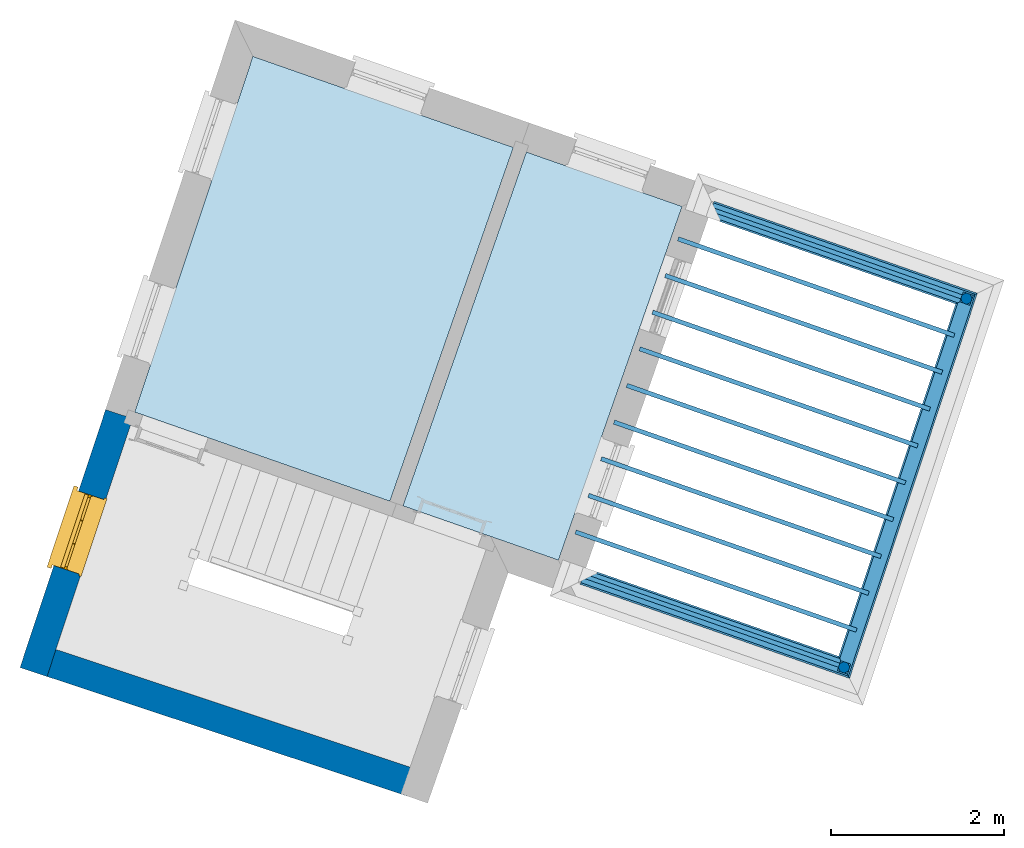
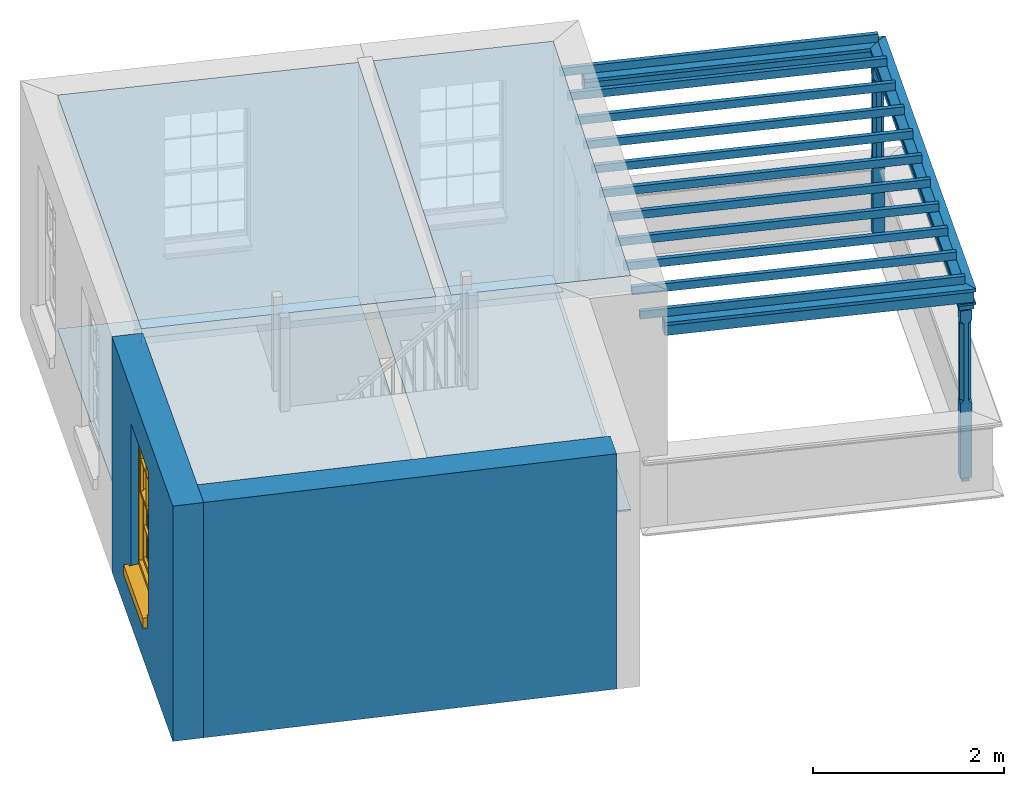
# One storey, part 1 of 6: 17 beams, 4 slabs, 2 columns, 2 walls, 1 window, 1 opening.
"""IFC4 building model written with IfcOpenShell, lengths in metres."""

import ifcopenshell
import ifcopenshell.guid

model = None  # the IFC model being written
_history = None  # IfcOwnerHistory: only IFC2X3 demands one
_inside = {}  # id of a spatial element -> (the spatial element, [elements in it])
_under = {}  # id of a project, library or spatial element -> (it, [spatial elements below it])
_declared = {}  # id of a project -> (the project, [libraries it declares])
_typed = {}  # id of a type object -> (the type object, [elements of that type])
_made_of = {}  # id of a material, layer set ... -> (it, [elements and type objects made of it])


def new_model(schema):
    """Start an empty IFC model of exactly this schema.

    Asked for "IFC4X3", IfcOpenShell would pick the latest addendum, in which some entities
    have other attributes; the version numbers below select the first issue.
    IFC2X3 requires an IfcOwnerHistory on every rooted entity: one is made here for all.
    """
    global model, _history
    if schema == "IFC4X3":
        model = ifcopenshell.file(schema_version=(4, 3, 0, 0))
    else:
        model = ifcopenshell.file(schema=schema)
    _inside.clear()
    _under.clear()
    _declared.clear()
    _typed.clear()
    _made_of.clear()
    _history = None
    if model.schema == "IFC2X3":
        org = make("IfcOrganization", Name="unknown")
        user = make(
            "IfcPersonAndOrganization",
            ThePerson=make("IfcPerson", FamilyName="unknown"),
            TheOrganization=org,
        )
        app = make(
            "IfcApplication",
            ApplicationDeveloper=org,
            Version="unknown",
            ApplicationFullName="unknown",
            ApplicationIdentifier="unknown",
        )
        _history = make(
            "IfcOwnerHistory",
            OwningUser=user,
            OwningApplication=app,
            ChangeAction="ADDED",
            CreationDate=0,
        )
    return model


def make(cls, **values):
    """One entity of the class cls with the attributes given. An attribute that is None is left unset."""
    return model.create_entity(
        cls, **{name: value for name, value in values.items() if value is not None}
    )


def rooted(cls, **values):
    """An entity with a GlobalId (a new one), such as an element, a storey or a relation."""
    return make(cls, GlobalId=ifcopenshell.guid.new(), OwnerHistory=_history, **values)


def si_unit(unit_type, name, prefix=None):
    """IfcSIUnit, for example si_unit("LENGTHUNIT", "METRE", prefix="MILLI")."""
    return make("IfcSIUnit", UnitType=unit_type, Prefix=prefix, Name=name)


def assignment(units):
    """IfcUnitAssignment: the units of a project."""
    return None if units is None else make("IfcUnitAssignment", Units=units)


def point(xyz):
    """IfcCartesianPoint."""
    return None if xyz is None else make("IfcCartesianPoint", Coordinates=xyz)


def direction(xyz):
    """IfcDirection."""
    return None if xyz is None else make("IfcDirection", DirectionRatios=xyz)


def frame(location, z_axis=None, x_axis=None):
    """IfcAxis2Placement3D, a coordinate frame: its origin and axes. An axis left out is left unset."""
    return make(
        "IfcAxis2Placement3D",
        Location=point(location),
        Axis=direction(z_axis),
        RefDirection=direction(x_axis),
    )


def origin():
    """The frame at (0, 0, 0) with its axes left unset."""
    return frame((0.0, 0.0, 0.0))


def origin_with_axes():
    """The frame at (0, 0, 0) with the z axis (0, 0, 1) and the x axis (1, 0, 0) written out."""
    return frame((0.0, 0.0, 0.0), z_axis=(0.0, 0.0, 1.0), x_axis=(1.0, 0.0, 0.0))


def place(relative_to, where):
    """IfcLocalPlacement: puts the frame where relative to a parent placement (None: the world)."""
    return make(
        "IfcLocalPlacement", PlacementRelTo=relative_to, RelativePlacement=where
    )


def context(
    kind, dimensions, precision=None, world=None, true_north=None, identifier=None
):
    """IfcGeometricRepresentationContext, for example the 3D "Model" context."""
    return make(
        "IfcGeometricRepresentationContext",
        ContextIdentifier=identifier,
        ContextType=kind,
        CoordinateSpaceDimension=dimensions,
        Precision=precision,
        WorldCoordinateSystem=world,
        TrueNorth=true_north,
    )


def subcontext(parent, identifier, kind, view, scale=None):
    """IfcGeometricRepresentationSubContext, for example "Body" below "Model"."""
    return make(
        "IfcGeometricRepresentationSubContext",
        ContextIdentifier=identifier,
        ContextType=kind,
        ParentContext=parent,
        TargetScale=scale,
        TargetView=view,
    )


def project(units=None, contexts=None):
    """IfcProject with its units and contexts."""
    return rooted(
        "IfcProject",
        Name="project",
        RepresentationContexts=contexts,
        UnitsInContext=assignment(units),
    )


def spatial(cls, under=None, at=None, **own):
    """A site, building, storey or space (cls), placed at a placement, below another one or the project."""
    s = rooted(cls, ObjectPlacement=at, **own)
    if under is not None:
        _under.setdefault(under.id(), (under, []))[1].append(s)
    return s


def polyline(points):
    """IfcPolyline through the points."""
    return make("IfcPolyline", Points=[point(p) for p in points])


def outline(outer, holes=None, kind="AREA"):
    """IfcArbitraryClosedProfileDef: a profile drawn as a closed curve; with holes, ...WithVoids."""
    if holes is None:
        return make("IfcArbitraryClosedProfileDef", ProfileType=kind, OuterCurve=outer)
    return make(
        "IfcArbitraryProfileDefWithVoids",
        ProfileType=kind,
        OuterCurve=outer,
        InnerCurves=holes,
    )


def extrude(swept, where, along, depth):
    """IfcExtrudedAreaSolid: the profile swept, set in the frame where, extruded along a direction by depth."""
    return make(
        "IfcExtrudedAreaSolid",
        SweptArea=swept,
        Position=where,
        ExtrudedDirection=direction(along),
        Depth=depth,
    )


def clip(a, b, op="DIFFERENCE"):
    """IfcBooleanClippingResult: the solid a cut by the half space b."""
    return make(
        "IfcBooleanClippingResult", Operator=op, FirstOperand=a, SecondOperand=b
    )


def halfspace(plane, agree):
    """IfcHalfSpaceSolid: all space on one side of the plane z = 0 of the frame plane."""
    return make(
        "IfcHalfSpaceSolid",
        BaseSurface=make("IfcPlane", Position=plane),
        AgreementFlag=agree,
    )


def faces_of(points, faces, orient=None, outer=None):
    """IfcFace entities. A face is a list of loops; a loop is a list of indices into points, from 0.

    orient and outer hold one flag for each loop. By default every Orientation is true, the
    first loop of a face is its IfcFaceOuterBound and the others are IfcFaceBound.
    """
    made = []
    for i, loops in enumerate(faces):
        bounds = []
        for j, loop in enumerate(loops):
            is_outer = j == 0 if outer is None else outer[i][j]
            bounds.append(
                make(
                    "IfcFaceOuterBound" if is_outer else "IfcFaceBound",
                    Bound=make("IfcPolyLoop", Polygon=[points[k] for k in loop]),
                    Orientation=True if orient is None else orient[i][j],
                )
            )
        made.append(make("IfcFace", Bounds=bounds))
    return made


def faceted_brep(points, faces, orient=None, outer=None, voids=None):
    """IfcFacetedBrep: a solid bounded by flat faces; with voids (closed shells), ...WithVoids."""
    shared = [point(p) for p in points]
    hull = make("IfcClosedShell", CfsFaces=faces_of(shared, faces, orient, outer))
    if voids is None:
        return make("IfcFacetedBrep", Outer=hull)
    return make(
        "IfcFacetedBrepWithVoids",
        Outer=hull,
        Voids=[
            make(cls, CfsFaces=faces_of(shared, fs, o, b)) for cls, fs, o, b in voids
        ],
    )


def shape(context_of_items, identifier, shape_type, items):
    """IfcShapeRepresentation: the items that make up one representation, for example the "Body"."""
    return make(
        "IfcShapeRepresentation",
        ContextOfItems=context_of_items,
        RepresentationIdentifier=identifier,
        RepresentationType=shape_type,
        Items=items,
    )


def source(mapping_origin, context_of_items, identifier, shape_type, items):
    """IfcRepresentationMap: a shape defined once, which mapped items show again and again."""
    return make(
        "IfcRepresentationMap",
        MappingOrigin=mapping_origin,
        MappedRepresentation=shape(context_of_items, identifier, shape_type, items),
    )


def transform(
    local_origin,
    x_axis=None,
    y_axis=None,
    z_axis=None,
    scale=None,
    scale2=None,
    scale3=None,
    uniform=True,
):
    """IfcCartesianTransformationOperator3D, or its non-uniform kind. x_axis, y_axis, z_axis: its Axis1, 2, 3."""
    if uniform:
        return make(
            "IfcCartesianTransformationOperator3D",
            Axis1=direction(x_axis),
            Axis2=direction(y_axis),
            LocalOrigin=point(local_origin),
            Scale=scale,
            Axis3=direction(z_axis),
        )
    return make(
        "IfcCartesianTransformationOperator3DnonUniform",
        Axis1=direction(x_axis),
        Axis2=direction(y_axis),
        LocalOrigin=point(local_origin),
        Scale=scale,
        Axis3=direction(z_axis),
        Scale2=scale2,
        Scale3=scale3,
    )


def mapped(mapping_source, mapping_target):
    """IfcMappedItem: shows the shape of a source again, moved by a transform."""
    return make(
        "IfcMappedItem", MappingSource=mapping_source, MappingTarget=mapping_target
    )


def material(Name=None, Category=None):
    """IfcMaterial."""
    return make("IfcMaterial", Name=Name, Category=Category)


def layer(
    of_material, thickness, ventilated=None, Name=None, Category=None, Priority=None
):
    """IfcMaterialLayer: one layer of a wall or slab, of a material (None: an air gap)."""
    return make(
        "IfcMaterialLayer",
        Material=of_material,
        LayerThickness=thickness,
        IsVentilated=ventilated,
        Name=Name,
        Category=Category,
        Priority=Priority,
    )


def layer_set(layers, Name=None):
    """IfcMaterialLayerSet."""
    return make("IfcMaterialLayerSet", MaterialLayers=layers, LayerSetName=Name)


def layer_usage(for_layer_set, set_direction, sense, offset, extent=None):
    """IfcMaterialLayerSetUsage: how a layer set lies in its element."""
    return make(
        "IfcMaterialLayerSetUsage",
        ForLayerSet=for_layer_set,
        LayerSetDirection=set_direction,
        DirectionSense=sense,
        OffsetFromReferenceLine=offset,
        ReferenceExtent=extent,
    )


def material_profile(
    of_material, cross_section, Name=None, Category=None, Priority=None
):
    """IfcMaterialProfile: a cross section and its material."""
    return make(
        "IfcMaterialProfile",
        Name=Name,
        Material=of_material,
        Profile=cross_section,
        Priority=Priority,
        Category=Category,
    )


def profile_set(profiles, Name=None, composite=None):
    """IfcMaterialProfileSet."""
    return make(
        "IfcMaterialProfileSet",
        Name=Name,
        MaterialProfiles=profiles,
        CompositeProfile=composite,
    )


def profile_usage(for_profile_set, cardinal=None, extent=None):
    """IfcMaterialProfileSetUsage: how a profile set lies along its element."""
    return make(
        "IfcMaterialProfileSetUsage",
        ForProfileSet=for_profile_set,
        CardinalPoint=cardinal,
        ReferenceExtent=extent,
    )


def made_of(thing, what):
    """Note that an element or type object is made of a material, layer set ...; save() writes the relation."""
    if what is not None:
        _made_of.setdefault(what.id(), (what, []))[1].append(thing)
    return thing


def type_object(cls, material=None, **own):
    """A type object (cls), such as IfcWallType, which elements share."""
    return made_of(rooted(cls, **own), material)


def type_shapes(of_type, sources):
    """Give a type object the sources (RepresentationMaps) that its elements show as mapped items."""
    of_type.RepresentationMaps = sources


def element(
    cls,
    number,
    at=None,
    inside=None,
    cuts=None,
    type_object=None,
    material=None,
    context=None,
    identifier="Body",
    shape_type=None,
    held_by="IfcProductDefinitionShape",
    body=None,
    shapes=None,
    **own,
):
    """One element of the class cls, such as IfcWall. Its Tag is "e" and its number.

    at: its placement. inside: the storey or other place that contains it. cuts: it is an
    opening in that element (IfcRelVoidsElement). A single representation is given by context,
    identifier, shape_type and body (its items); several are given by shapes. held_by: the class
    of the entity that holds the representations. save() writes the other relations.
    """
    e = rooted(cls, Tag="e%d" % number, ObjectPlacement=at, **own)
    if body is not None:
        shapes = [shape(context, identifier, shape_type, body)]
    if shapes is not None:
        e.Representation = make(held_by, Representations=shapes)
    if inside is not None:
        _inside.setdefault(inside.id(), (inside, []))[1].append(e)
    if cuts is not None:
        rooted(
            "IfcRelVoidsElement", RelatingBuildingElement=cuts, RelatedOpeningElement=e
        )
    if type_object is not None:
        _typed.setdefault(type_object.id(), (type_object, []))[1].append(e)
    return made_of(e, material)


def fill(opening, filler):
    """IfcRelFillsElement: the door or window that sits in an opening."""
    return rooted(
        "IfcRelFillsElement",
        RelatingOpeningElement=opening,
        RelatedBuildingElement=filler,
    )


def aggregate(whole, parts):
    """IfcRelAggregates: a whole, such as a stair, and the parts it consists of."""
    return rooted("IfcRelAggregates", RelatingObject=whole, RelatedObjects=parts)


def save(model, path):
    """Write the relations noted so far, then the file.

    IfcRelAggregates (storeys below a building ...), IfcRelContainedInSpatialStructure (elements
    in a storey), IfcRelDefinesByType, IfcRelAssociatesMaterial and IfcRelDeclares: one each for
    every whole, place, type object, material and project.
    """
    for whole, parts in _under.values():
        aggregate(whole, parts)
    for where, things in _inside.values():
        rooted(
            "IfcRelContainedInSpatialStructure",
            RelatedElements=things,
            RelatingStructure=where,
        )
    for kind, things in _typed.values():
        rooted("IfcRelDefinesByType", RelatedObjects=things, RelatingType=kind)
    for what, things in _made_of.values():
        rooted("IfcRelAssociatesMaterial", RelatedObjects=things, RelatingMaterial=what)
    for by, libraries in _declared.values():
        rooted("IfcRelDeclares", RelatingContext=by, RelatedDefinitions=libraries)
    model.write(path)


model = new_model("IFC4")

# Units and contexts
model_context = context("Model", 3, world=origin_with_axes())
body_context = subcontext(model_context, "Body", "Model", "MODEL_VIEW")
ifc_project = project(units=[si_unit("PLANEANGLEUNIT", "RADIAN"), si_unit("MASSUNIT", "GRAM", prefix="KILO"), si_unit("FORCEUNIT", "NEWTON", prefix="KILO"), si_unit("LENGTHUNIT", "METRE"), si_unit("AREAUNIT", "SQUARE_METRE"), si_unit("VOLUMEUNIT", "CUBIC_METRE")], contexts=[model_context, model_context])

# Sites, building, storey
site_1_placement = place(None, origin_with_axes())
site_1 = spatial("IfcSite", under=ifc_project, at=site_1_placement, Name="Tamar")
site_2_placement = place(site_1_placement, origin_with_axes())
site_2 = spatial("IfcSite", under=site_1, at=site_2_placement, Name="Site plot-15", CompositionType="ELEMENT")
building_placement = place(None, origin_with_axes())
building = spatial("IfcBuilding", under=site_2, at=building_placement, Name="Building plot-15", CompositionType="ELEMENT")
storey_placement = place(None, frame((0.0, 0.0, 29.95), z_axis=(0.0, 0.0, 1.0), x_axis=(1.0, 0.0, 0.0)))
storey = spatial("IfcBuildingStorey", under=building, at=storey_placement, Name="plot-15 1", CompositionType="ELEMENT", Elevation=29.95)

# Columns
column_type = type_object("IfcColumnType", Name="pergola post", PredefinedType="NOTDEFINED")
shared_shape_1 = source(origin(), body_context, "Body", "Brep", [
    faceted_brep([(0.0246, -0.0615, 2.02), (0.0615, -0.0246, 2.02), (0.0615, -0.0615, 2.066667), (0.0615, -0.0246, 1.044444), (0.0246, -0.0615, 1.044444), (0.0615, 0.0246, 2.02), (0.0615, 0.0615, 2.066667), (-0.0246, -0.0615, 2.02), (-0.0615, -0.0615, 2.066667), (-0.0246, -0.0615, 1.044444), (0.0615, -0.0615, 0.997778), (0.0615, 0.0246, 1.044444), (0.0246, 0.0615, 2.02), (0.0615, 0.0615, 2.191111), (0.0615, -0.0615, 2.191111), (-0.0615, -0.0615, 2.191111), (-0.0615, -0.0246, 2.02), (-0.0615, -0.0246, 1.044444), (-0.0615, -0.0615, 0.997778), (0.0615, 0.0615, 0.997778), (0.0246, 0.0615, 1.044444), (-0.0246, 0.0615, 2.02), (-0.0615, 0.0615, 2.066667), (0.04305, 0.04305, 2.191111), (0.04305, -0.04305, 2.191111), (-0.0615, 0.0615, 2.191111), (-0.04305, -0.04305, 2.191111), (-0.0615, 0.0246, 2.02), (-0.0615, 0.0246, 1.044444), (0.0615, -0.0615, 0.053333), (-0.0615, -0.0615, 0.053333), (0.0615, 0.0615, 0.053333), (-0.0246, 0.0615, 1.044444), (-0.04305, 0.04305, 2.191111), (0.04305, 0.04305, 2.214444), (0.04305, -0.04305, 2.214444), (-0.04305, -0.04305, 2.214444), (-0.0615, 0.0615, 0.997778), (-0.0615, 0.0615, 0.053333), (-0.04305, -0.04305, 0.053333), (0.04305, -0.04305, 0.053333), (0.04305, 0.04305, 0.053333), (-0.04305, 0.04305, 2.214444), (0.07995, 0.07995, 2.214444), (0.07995, -0.07995, 2.214444), (-0.07995, -0.07995, 2.214444), (-0.04305, 0.04305, 0.053333), (-0.04305, -0.04305, 0.0), (0.04305, -0.04305, 0.0), (0.04305, 0.04305, 0.0), (-0.07995, 0.07995, 2.214444), (0.07995, 0.07995, 2.276667), (0.07995, -0.07995, 2.276667), (-0.07995, -0.07995, 2.276667), (-0.04305, 0.04305, 0.0), (-0.07995, 0.07995, 2.276667), (0.0984, 0.0984, 2.276667), (0.0984, -0.0984, 2.276667), (-0.0984, -0.0984, 2.276667), (-0.0984, 0.0984, 2.276667), (0.0984, 0.0984, 2.3), (0.0984, -0.0984, 2.3), (-0.0984, -0.0984, 2.3), (-0.0984, 0.0984, 2.3)], [[[0, 1, 2]], [[3, 1, 0, 4]], [[1, 5, 6, 2]], [[7, 0, 2, 8]], [[4, 0, 7, 9]], [[3, 4, 10]], [[1, 3, 11, 5]], [[5, 12, 6]], [[13, 14, 2, 6]], [[15, 8, 2, 14]], [[8, 16, 7]], [[9, 7, 16, 17]], [[9, 18, 10, 4]], [[3, 10, 19, 11]], [[20, 12, 5, 11]], [[21, 22, 6, 12]], [[14, 13, 23, 24]], [[13, 6, 22, 25]], [[25, 22, 8, 15]], [[26, 15, 14, 24]], [[16, 8, 22, 27]], [[27, 28, 17, 16]], [[17, 18, 9]], [[29, 10, 18, 30]], [[31, 19, 10, 29]], [[20, 11, 19]], [[12, 20, 32, 21]], [[21, 27, 22]], [[33, 23, 13, 25]], [[23, 34, 35, 24]], [[26, 33, 25, 15]], [[36, 26, 24, 35]], [[28, 27, 21, 32]], [[17, 28, 37, 18]], [[38, 30, 18, 37]], [[29, 30, 39, 40]], [[31, 38, 37, 19]], [[40, 41, 31, 29]], [[32, 20, 19, 37]], [[33, 42, 34, 23]], [[43, 44, 35, 34]], [[42, 33, 26, 36]], [[36, 35, 44, 45]], [[28, 32, 37]], [[46, 39, 30, 38]], [[39, 47, 48, 40]], [[46, 38, 31, 41]], [[49, 41, 40, 48]], [[43, 34, 42, 50]], [[43, 51, 52, 44]], [[45, 50, 42, 36]], [[53, 45, 44, 52]], [[46, 54, 47, 39]], [[54, 46, 41, 49]], [[50, 55, 51, 43]], [[56, 57, 52, 51]], [[55, 50, 45, 53]], [[53, 52, 57, 58]], [[56, 51, 55, 59]], [[56, 60, 61, 57]], [[58, 59, 55, 53]], [[62, 58, 57, 61]], [[59, 63, 60, 56]], [[63, 62, 61, 60]], [[58, 62, 63, 59]], [[47, 54, 49, 48]]]),
])
type_shapes(column_type, [shared_shape_1])
for number, where, z_axis, x_axis, name in (
    (1, (265.557197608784, 303.834257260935, 0.0), (0.0, 0.0, 1.0), (0.315038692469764, 0.949078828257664, 0.0), "pergola post"),
    (2, (266.976352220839, 308.109572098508, 0.0), (0.0, 0.0, 1.0), (-0.943980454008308, 0.33000136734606, 0.0), "pergola post"),
):
    element("IfcColumn", number, at=place(storey_placement, frame(where, z_axis=z_axis, x_axis=x_axis)), inside=storey, type_object=column_type, Name=name, context=body_context, shape_type="MappedRepresentation", body=[
        mapped(shared_shape_1, transform((0.0, 0.0, 0.0), scale=1.0)),
    ])

# Beams
ifc_material_profile_1 = material_profile(None, outline(polyline([(-0.08, -0.7), (0.08, -0.7), (0.08, -0.56), (-0.08, -0.56), (-0.08, -0.7)])))
ifc_profile_set_1 = profile_set([ifc_material_profile_1])
ifc_profile_usage_1 = profile_usage(ifc_profile_set_1)
beam_type_1 = type_object("IfcBeamType", Name="pergola beam_0", PredefinedType="NOTDEFINED", material=ifc_profile_set_1)
beam_1_placement = place(storey_placement, frame((266.501178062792, 303.504255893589, 3.0), z_axis=(-0.94398045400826, 0.330001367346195, 0.0), x_axis=(-0.330001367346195, -0.94398045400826, 0.0)))
element("IfcBeam", 3, at=beam_1_placement, inside=storey, type_object=beam_type_1, material=ifc_profile_usage_1, Name="pergola beam_0", context=body_context, shape_type="Clipping", body=[
    clip(clip(extrude(outline(polyline([(-0.08, -0.7), (0.08, -0.7), (0.08, -0.56), (-0.08, -0.56), (-0.08, -0.7)])), origin_with_axes(), (0.0, 0.0, 1.0), 5.20638222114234), halfspace(frame((0.0, 0.0, 4.20638222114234), z_axis=(-3.61394601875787e-15, 0.0, -1.0), x_axis=(0.0, 1.0, 0.0)), True)), halfspace(frame((0.0, 0.0, 1.0), z_axis=(-0.712673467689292, 0.0, -0.701495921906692), x_axis=(0.0, 1.0, 0.0)), False)),
])
ifc_profile_usage_2 = profile_usage(ifc_profile_set_1)
beam_2_placement = place(storey_placement, frame((267.291390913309, 309.058650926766, 3.0), z_axis=(-0.315038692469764, -0.949078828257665, 0.0), x_axis=(0.949078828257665, -0.315038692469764, 0.0)))
element("IfcBeam", 4, at=beam_2_placement, inside=storey, type_object=beam_type_1, material=ifc_profile_usage_2, Name="pergola beam_0", context=body_context, shape_type="Clipping", body=[
    clip(clip(extrude(outline(polyline([(-0.08, -0.7), (0.08, -0.7), (0.08, -0.56), (-0.08, -0.56), (-0.08, -0.7)])), origin_with_axes(), (0.0, 0.0, 1.0), 6.50469940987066), halfspace(frame((0.0, 0.0, 5.50469940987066), z_axis=(0.712673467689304, 0.0, -0.70149592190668), x_axis=(0.0, 1.0, 0.0)), True)), halfspace(frame((0.0, 0.0, 1.0), z_axis=(-0.701495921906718, 0.0, -0.712673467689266), x_axis=(0.0, 1.0, 0.0)), False)),
])
ifc_profile_usage_3 = profile_usage(ifc_profile_set_1)
beam_3_placement = place(storey_placement, frame((263.072826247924, 309.474186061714, 3.0), z_axis=(0.943980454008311, -0.330001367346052, 0.0), x_axis=(0.330001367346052, 0.943980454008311, 0.0)))
element("IfcBeam", 5, at=beam_3_placement, inside=storey, type_object=beam_type_1, material=ifc_profile_usage_3, Name="pergola beam_0", context=body_context, shape_type="Clipping", body=[
    clip(clip(extrude(outline(polyline([(-0.08, -0.7), (0.08, -0.7), (0.08, -0.56), (-0.08, -0.56), (-0.08, -0.7)])), origin_with_axes(), (0.0, 0.0, 1.0), 5.13517669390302), halfspace(frame((0.0, 0.0, 4.13517669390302), z_axis=(0.701495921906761, 0.0, -0.712673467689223), x_axis=(0.0, 1.0, 0.0)), True)), halfspace(frame((0.0, 0.0, 1.0), z_axis=(-1.29398194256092e-14, 0.0, -1.0), x_axis=(0.0, 1.0, 0.0)), False)),
])
ifc_material_profile_2 = material_profile(None, outline(polyline([(0.0, -0.5), (-0.1, -0.52), (-0.1, -0.56), (0.1, -0.56), (0.1, -0.52), (0.0, -0.5)])))
ifc_profile_set_2 = profile_set([ifc_material_profile_2])
ifc_profile_usage_4 = profile_usage(ifc_profile_set_2)
beam_type_2 = type_object("IfcBeamType", Name="pergola beam_1", PredefinedType="NOTDEFINED", material=ifc_profile_set_2)
beam_4_placement = place(storey_placement, frame((266.501178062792, 303.504255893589, 3.0), z_axis=(-0.94398045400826, 0.330001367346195, 0.0), x_axis=(-0.330001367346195, -0.94398045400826, 0.0)))
element("IfcBeam", 6, at=beam_4_placement, inside=storey, type_object=beam_type_2, material=ifc_profile_usage_4, Name="pergola beam_1", context=body_context, shape_type="Clipping", body=[
    clip(clip(extrude(outline(polyline([(0.0, -0.5), (-0.1, -0.52), (-0.1, -0.56), (0.1, -0.56), (0.1, -0.52), (0.0, -0.5)])), origin_with_axes(), (0.0, 0.0, 1.0), 5.20638222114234), halfspace(frame((0.0, 0.0, 4.20638222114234), z_axis=(-3.61394601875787e-15, 0.0, -1.0), x_axis=(0.0, 1.0, 0.0)), True)), halfspace(frame((0.0, 0.0, 1.0), z_axis=(-0.712673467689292, 0.0, -0.701495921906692), x_axis=(0.0, 1.0, 0.0)), False)),
])
ifc_profile_usage_5 = profile_usage(ifc_profile_set_2)
beam_5_placement = place(storey_placement, frame((267.291390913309, 309.058650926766, 3.0), z_axis=(-0.315038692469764, -0.949078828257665, 0.0), x_axis=(0.949078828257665, -0.315038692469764, 0.0)))
element("IfcBeam", 7, at=beam_5_placement, inside=storey, type_object=beam_type_2, material=ifc_profile_usage_5, Name="pergola beam_1", context=body_context, shape_type="Clipping", body=[
    clip(clip(extrude(outline(polyline([(0.0, -0.5), (-0.1, -0.52), (-0.1, -0.56), (0.1, -0.56), (0.1, -0.52), (0.0, -0.5)])), origin_with_axes(), (0.0, 0.0, 1.0), 6.50469940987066), halfspace(frame((0.0, 0.0, 5.50469940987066), z_axis=(0.712673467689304, 0.0, -0.70149592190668), x_axis=(0.0, 1.0, 0.0)), True)), halfspace(frame((0.0, 0.0, 1.0), z_axis=(-0.701495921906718, 0.0, -0.712673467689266), x_axis=(0.0, 1.0, 0.0)), False)),
])
ifc_profile_usage_6 = profile_usage(ifc_profile_set_2)
beam_6_placement = place(storey_placement, frame((263.072826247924, 309.474186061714, 3.0), z_axis=(0.943980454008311, -0.330001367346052, 0.0), x_axis=(0.330001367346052, 0.943980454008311, 0.0)))
element("IfcBeam", 8, at=beam_6_placement, inside=storey, type_object=beam_type_2, material=ifc_profile_usage_6, Name="pergola beam_1", context=body_context, shape_type="Clipping", body=[
    clip(clip(extrude(outline(polyline([(0.0, -0.5), (-0.1, -0.52), (-0.1, -0.56), (0.1, -0.56), (0.1, -0.52), (0.0, -0.5)])), origin_with_axes(), (0.0, 0.0, 1.0), 5.13517669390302), halfspace(frame((0.0, 0.0, 4.13517669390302), z_axis=(0.701495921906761, 0.0, -0.712673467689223), x_axis=(0.0, 1.0, 0.0)), True)), halfspace(frame((0.0, 0.0, 1.0), z_axis=(-1.29398194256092e-14, 0.0, -1.0), x_axis=(0.0, 1.0, 0.0)), False)),
])
beam_7_placement = place(storey_placement, frame((263.789061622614, 309.250284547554, 2.5)))
element("IfcBeam", 9, at=beam_7_placement, inside=storey, Name="My Beam", ObjectType="Beam", context=body_context, shape_type="SweptSolid", body=[
    extrude(outline(polyline([(0.0, 0.0), (-0.0165000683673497, -0.0471990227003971), (3.17904056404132, -1.16431196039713), (3.19554063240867, -1.11711293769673), (0.0, 0.0)])), origin_with_axes(), (0.0, 0.0, 1.0), 0.1),
])
beam_8_placement = place(storey_placement, frame((263.640561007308, 308.825493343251, 2.5)))
element("IfcBeam", 10, at=beam_8_placement, inside=storey, Name="My Beam", ObjectType="Beam", context=body_context, shape_type="SweptSolid", body=[
    extrude(outline(polyline([(0.0, 0.0), (-0.0165000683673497, -0.0471990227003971), (3.18575605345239, -1.16665959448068), (3.20225612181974, -1.11946057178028), (0.0, 0.0)])), origin_with_axes(), (0.0, 0.0, 1.0), 0.1),
])
beam_9_placement = place(storey_placement, frame((263.492060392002, 308.400702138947, 2.5)))
element("IfcBeam", 11, at=beam_9_placement, inside=storey, Name="My Beam", ObjectType="Beam", context=body_context, shape_type="SweptSolid", body=[
    extrude(outline(polyline([(0.0, 0.0), (-0.0165000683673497, -0.0471990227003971), (3.19247154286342, -1.16900722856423), (3.20897161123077, -1.12180820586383), (0.0, 0.0)])), origin_with_axes(), (0.0, 0.0, 1.0), 0.1),
])
beam_10_placement = place(storey_placement, frame((263.343559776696, 307.975910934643, 2.5)))
element("IfcBeam", 12, at=beam_10_placement, inside=storey, Name="My Beam", ObjectType="Beam", context=body_context, shape_type="SweptSolid", body=[
    extrude(outline(polyline([(0.0, 0.0), (-0.0165000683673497, -0.0471990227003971), (3.19918703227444, -1.17135486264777), (3.21568710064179, -1.12415583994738), (0.0, 0.0)])), origin_with_axes(), (0.0, 0.0, 1.0), 0.1),
])
beam_11_placement = place(storey_placement, frame((263.19505916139, 307.551119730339, 2.5)))
element("IfcBeam", 13, at=beam_11_placement, inside=storey, Name="My Beam", ObjectType="Beam", context=body_context, shape_type="SweptSolid", body=[
    extrude(outline(polyline([(0.0, 0.0), (-0.0165000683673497, -0.0471990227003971), (3.20590252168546, -1.17370249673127), (3.22240259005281, -1.12650347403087), (0.0, 0.0)])), origin_with_axes(), (0.0, 0.0, 1.0), 0.1),
])
beam_12_placement = place(storey_placement, frame((263.046558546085, 307.126328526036, 2.5)))
element("IfcBeam", 14, at=beam_12_placement, inside=storey, Name="My Beam", ObjectType="Beam", context=body_context, shape_type="SweptSolid", body=[
    extrude(outline(polyline([(0.0, 0.0), (-0.0165000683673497, -0.0471990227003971), (3.21261801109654, -1.17605013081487), (3.22911807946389, -1.12885110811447), (0.0, 0.0)])), origin_with_axes(), (0.0, 0.0, 1.0), 0.1),
])
beam_13_placement = place(storey_placement, frame((262.898057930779, 306.701537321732, 2.5)))
element("IfcBeam", 15, at=beam_13_placement, inside=storey, Name="My Beam", ObjectType="Beam", context=body_context, shape_type="SweptSolid", body=[
    extrude(outline(polyline([(0.0, 0.0), (-0.0165000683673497, -0.0471990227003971), (3.21933350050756, -1.17839776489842), (3.23583356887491, -1.13119874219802), (0.0, 0.0)])), origin_with_axes(), (0.0, 0.0, 1.0), 0.1),
])
beam_14_placement = place(storey_placement, frame((262.749557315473, 306.276746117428, 2.5)))
element("IfcBeam", 16, at=beam_14_placement, inside=storey, Name="My Beam", ObjectType="Beam", context=body_context, shape_type="SweptSolid", body=[
    extrude(outline(polyline([(0.0, 0.0), (-0.0165000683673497, -0.0471990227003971), (3.22604898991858, -1.18074539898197), (3.24254905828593, -1.13354637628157), (0.0, 0.0)])), origin_with_axes(), (0.0, 0.0, 1.0), 0.1),
])
beam_15_placement = place(storey_placement, frame((262.601056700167, 305.851954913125, 2.5)))
element("IfcBeam", 17, at=beam_15_placement, inside=storey, Name="My Beam", ObjectType="Beam", context=body_context, shape_type="SweptSolid", body=[
    extrude(outline(polyline([(0.0, 0.0), (-0.0165000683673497, -0.0471990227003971), (3.23276447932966, -1.18309303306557), (3.24926454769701, -1.13589401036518), (0.0, 0.0)])), origin_with_axes(), (0.0, 0.0, 1.0), 0.1),
])
beam_16_placement = place(storey_placement, frame((262.452556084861, 305.427163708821, 2.5)))
element("IfcBeam", 18, at=beam_16_placement, inside=storey, Name="My Beam", ObjectType="Beam", context=body_context, shape_type="SweptSolid", body=[
    extrude(outline(polyline([(0.0, 0.0), (-0.0165000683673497, -0.0471990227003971), (3.23947996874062, -1.18544066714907), (3.25598003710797, -1.13824164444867), (0.0, 0.0)])), origin_with_axes(), (0.0, 0.0, 1.0), 0.1),
])
beam_17_placement = place(storey_placement, frame((262.304055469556, 305.002372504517, 2.5)))
element("IfcBeam", 19, at=beam_17_placement, inside=storey, Name="My Beam", ObjectType="Beam", context=body_context, shape_type="SweptSolid", body=[
    extrude(outline(polyline([(0.0, 0.0), (-0.0165000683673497, -0.0471990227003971), (3.2461954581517, -1.18778830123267), (3.26269552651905, -1.14058927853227), (0.0, 0.0)])), origin_with_axes(), (0.0, 0.0, 1.0), 0.1),
])

# Slabs
slab_1_placement = place(storey_placement, frame((263.678893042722, 309.177566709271, 2.8)))
element("IfcSlab", 20, at=slab_1_placement, inside=storey, Name="My Slab", ObjectType="Slab", PredefinedType="FLOOR", context=body_context, shape_type="SweptSolid", body=[
    extrude(outline(polyline([(0.0, 0.0), (-1.80550277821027, 0.631176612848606), (-3.23667897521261, -3.47044062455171), (-1.43357101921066, -4.10078004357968), (0.0, 0.0)])), origin_with_axes(), (0.0, 0.0, 1.0), 0.2),
])
slab_2_placement = place(storey_placement, frame((263.678893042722, 309.177566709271, 0.0)))
element("IfcSlab", 21, at=slab_2_placement, inside=storey, Name="My Slab", ObjectType="Slab", PredefinedType="FLOOR", context=body_context, shape_type="SweptSolid", body=[
    extrude(outline(polyline([(0.0, 0.0), (-1.80550277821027, 0.631176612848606), (-3.23667897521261, -3.47044062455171), (-1.43357101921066, -4.10078004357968), (0.0, 0.0)])), origin_with_axes(), (0.0, 0.0, 1.0), 0.02),
])
slab_3_placement = place(storey_placement, frame((261.722353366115, 309.861543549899, 2.8)))
element("IfcSlab", 22, at=slab_3_placement, inside=storey, Name="My Slab", ObjectType="Slab", PredefinedType="FLOOR", context=body_context, shape_type="SweptSolid", body=[
    extrude(outline(polyline([(0.0, 0.0), (-3.01981933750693, 1.05568341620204), (-4.38856146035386, -3.06775983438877), (-1.4311761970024, -4.10161723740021), (0.0, 0.0)])), origin_with_axes(), (0.0, 0.0, 1.0), 0.2),
])
slab_4_placement = place(storey_placement, frame((261.722353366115, 309.861543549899, 0.0)))
element("IfcSlab", 23, at=slab_4_placement, inside=storey, Name="My Slab", ObjectType="Slab", PredefinedType="FLOOR", context=body_context, shape_type="SweptSolid", body=[
    extrude(outline(polyline([(0.0, 0.0), (-3.01981933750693, 1.05568341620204), (-4.38856146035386, -3.06775983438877), (-1.4311761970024, -4.10161723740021), (0.0, 0.0)])), origin_with_axes(), (0.0, 0.0, 1.0), 0.02),
])

# Wall, opening, window
ifc_material_1 = material(Name="Masonry")
ifc_layer_1 = layer(ifc_material_1, 0.33, ventilated=False)
ifc_layer_set_1 = layer_set([ifc_layer_1], Name="exterior_0.08_0.25")
ifc_layer_usage_1 = layer_usage(ifc_layer_set_1, "AXIS2", "POSITIVE", -0.25)
wall_type_1 = type_object("IfcWallType", Name="exterior_0.08_0.25", PredefinedType="SOLIDWALL", material=ifc_layer_set_1)
wall_1_placement = place(storey_placement, frame((257.233057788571, 306.744251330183, 0.0), z_axis=(0.0, 0.0, 1.0), x_axis=(-0.315038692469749, -0.94907882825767, 0.0)))
wall_1 = element("IfcWall", 24, at=wall_1_placement, inside=storey, type_object=wall_type_1, material=ifc_layer_usage_1, Name="exterior", context=body_context, shape_type="SweptSolid", body=[
    extrude(outline(polyline([(-2.06914893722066e-14, 0.0799999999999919), (3.076848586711e-14, -0.250000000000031), (3.1512704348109, -0.249999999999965), (3.15127043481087, 0.080000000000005), (-2.06914893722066e-14, 0.0799999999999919)])), origin_with_axes(), (0.0, 0.0, 1.0), 3.0),
])
opening_placement = place(wall_1_placement, frame((0.995635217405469, 0.0, 0.75)))
opening = element("IfcOpeningElement", 25, at=opening_placement, cuts=wall_1, Name="My Opening", ObjectType="Opening", context=body_context, shape_type="SweptSolid", body=[
    extrude(outline(polyline([(0.0, -0.270000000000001), (0.90999999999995, -0.27000000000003), (0.909999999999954, 1.1), (3.88578058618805e-15, 1.10000000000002), (0.0, -0.270000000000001)])), origin_with_axes(), (0.0, 0.0, 1.0), 1.82),
])
window_type = type_object("IfcWindowType", Name="sash_big", PartitioningType="DOUBLE_PANEL_HORIZONTAL", PredefinedType="NOTDEFINED")
shared_shape_2 = source(origin(), body_context, "Body", "Brep", [
    faceted_brep([(0.033125, 0.145, 0.975209), (0.01, 0.145, 0.975209), (0.033125, 0.145, 1.376042), (0.876875, 0.145, 0.975209), (0.876875, 0.145, 1.376042), (0.9, 0.145, 0.975209), (0.876875, 0.145, 1.386042), (0.876875, 0.145, 1.786875), (0.9, 0.145, 1.81), (0.033125, 0.145, 1.786875), (0.033125, 0.145, 1.386042), (0.01, 0.145, 1.81), (0.876875, 0.115, 1.376042), (0.876875, 0.115, 0.975209), (0.9, 0.115, 0.937083), (0.033125, 0.115, 1.786875), (0.01, 0.115, 1.81), (0.033125, 0.115, 1.386042), (0.01, 0.115, 0.937083), (0.033125, 0.115, 0.975209), (0.033125, 0.115, 1.376042), (0.876875, 0.115, 1.786875), (0.876875, 0.115, 1.386042), (0.9, 0.115, 1.81), (0.033125, 0.145, 0.937083), (0.01, 0.145, 0.937083), (0.033125, 0.145, 0.53625), (0.876875, 0.145, 0.937083), (0.876875, 0.145, 0.53625), (0.9, 0.145, 0.937083), (0.876875, 0.145, 0.52625), (0.876875, 0.145, 0.125417), (0.9, 0.145, 0.077167), (0.033125, 0.145, 0.125417), (0.033125, 0.145, 0.52625), (0.01, 0.145, 0.077167), (-0.0425, 0.0, 0.01), (-0.0425, -0.05, 0.001667), (0.0, 0.0, 0.01), (0.9525, 0.0, 0.01), (0.91, 0.0, 0.01), (0.9525, -0.05, 0.001667), (-0.02, 0.33, 0.077167), (0.0, 0.33, 0.077167), (-0.02, 0.36, 0.077167), (0.0, 0.19, 0.077167), (0.01, 0.19, 0.077167), (0.91, 0.19, 0.077167), (0.91, 0.33, 0.077167), (0.9, 0.19, 0.077167), (0.93, 0.33, 0.077167), (0.93, 0.36, 0.077167), (0.01, 0.175, 0.975209), (0.9, 0.175, 0.975209), (0.876875, 0.175, 0.125417), (0.876875, 0.175, 0.52625), (0.9, 0.175, 0.077167), (0.876875, 0.175, 0.53625), (0.876875, 0.175, 0.937083), (0.033125, 0.175, 0.125417), (0.01, 0.175, 0.077167), (0.033125, 0.175, 0.52625), (0.033125, 0.175, 0.937083), (0.033125, 0.175, 0.53625), (-0.02, 0.33, 0.052167), (-0.02, 0.36, 0.052167), (0.93, 0.36, 0.052167), (0.93, 0.33, 0.052167), (0.91, 0.33, 0.052167), (0.0, 0.33, 0.052167), (0.91, 0.1, 0.026667), (0.0, 0.1, 0.026667), (-0.0425, -0.05, -0.123333), (0.9525, -0.05, -0.123333), (-0.0425, 0.0, -0.123333), (0.9525, 0.0, -0.123333), (0.01, 0.19, 1.81), (0.9, 0.19, 1.81), (0.0, 0.19, 1.82), (0.91, 0.19, 1.82), (0.01, 0.1, 0.077167), (0.9, 0.1, 0.077167), (0.592292, 0.145, 0.125417), (0.592292, 0.175, 0.125417), (0.317708, 0.175, 0.125417), (0.317708, 0.145, 0.125417), (0.592292, 0.145, 0.53625), (0.317708, 0.145, 0.53625), (0.317708, 0.145, 0.52625), (0.592292, 0.145, 0.52625), (0.592292, 0.175, 0.53625), (0.317708, 0.175, 0.53625), (0.592292, 0.115, 1.386042), (0.592292, 0.145, 1.386042), (0.317708, 0.145, 1.386042), (0.317708, 0.115, 1.386042), (0.317708, 0.115, 1.376042), (0.592292, 0.115, 1.376042), (0.317708, 0.145, 1.376042), (0.592292, 0.145, 1.376042), (0.602292, 0.115, 1.376042), (0.592292, 0.115, 0.975209), (0.602292, 0.115, 0.975209), (0.602292, 0.145, 0.975209), (0.592292, 0.145, 0.975209), (0.602292, 0.145, 1.376042), (0.602292, 0.175, 0.53625), (0.602292, 0.145, 0.53625), (0.317708, 0.175, 0.52625), (0.307708, 0.175, 0.125417), (0.307708, 0.175, 0.52625), (0.602292, 0.175, 0.52625), (0.602292, 0.175, 0.125417), (0.592292, 0.175, 0.52625), (0.307708, 0.175, 0.53625), (0.317708, 0.175, 0.937083), (0.307708, 0.175, 0.937083), (0.602292, 0.175, 0.937083), (0.592292, 0.175, 0.937083), (0.307708, 0.145, 0.52625), (0.307708, 0.145, 0.125417), (0.307708, 0.145, 0.53625), (0.307708, 0.145, 0.937083), (0.592292, 0.145, 0.937083), (0.317708, 0.145, 0.937083), (0.602292, 0.145, 0.937083), (0.602292, 0.145, 0.52625), (0.602292, 0.145, 0.125417), (0.307708, 0.115, 1.386042), (0.307708, 0.115, 1.376042), (0.307708, 0.115, 0.975209), (0.317708, 0.115, 0.975209), (0.317708, 0.115, 1.786875), (0.307708, 0.115, 1.786875), (0.602292, 0.115, 1.786875), (0.592292, 0.115, 1.786875), (0.602292, 0.115, 1.386042), (0.602292, 0.145, 1.386042), (0.307708, 0.145, 1.386042), (0.307708, 0.145, 1.786875), (0.317708, 0.145, 1.786875), (0.592292, 0.145, 1.786875), (0.602292, 0.145, 1.786875), (0.307708, 0.145, 1.376042), (0.317708, 0.145, 0.975209), (0.307708, 0.145, 0.975209), (0.91, 0.1, 1.82), (0.9, 0.1, 1.81), (0.01, 0.1, 1.81), (0.0, 0.1, 1.82), (0.91, 0.0, 0.0), (0.0, 0.0, 0.0), (0.91, 0.33, 0.0), (0.0, 0.33, 0.0)], [[[0, 1, 2]], [[3, 4, 5]], [[6, 7, 8]], [[9, 10, 11]], [[12, 13, 14]], [[15, 16, 17]], [[18, 19, 20]], [[21, 22, 23]], [[24, 25, 26]], [[27, 28, 29]], [[30, 31, 32]], [[33, 34, 35]], [[14, 27, 29]], [[25, 24, 18]], [[36, 37, 38]], [[39, 40, 41]], [[42, 43, 44]], [[45, 46, 43]], [[47, 48, 49]], [[50, 51, 48]], [[1, 0, 52]], [[5, 53, 3]], [[54, 55, 56]], [[57, 58, 53]], [[59, 60, 61]], [[62, 63, 52]], [[48, 43, 46, 49]], [[51, 44, 43, 48]], [[64, 42, 44, 65]], [[65, 44, 51, 66]], [[66, 51, 50, 67]], [[65, 66, 68, 69]], [[60, 56, 49, 46]], [[70, 71, 38, 40]], [[37, 41, 40, 38]], [[37, 72, 73, 41]], [[74, 75, 73, 72]], [[8, 11, 76, 77]], [[76, 78, 79, 77]], [[32, 35, 80, 81]], [[81, 80, 71, 70]], [[82, 83, 84, 85]], [[86, 87, 88, 89]], [[86, 90, 91, 87]], [[92, 93, 94, 95]], [[92, 95, 96, 97]], [[96, 98, 99, 97]], [[100, 97, 101, 102]], [[103, 104, 99, 105]], [[97, 99, 104, 101]], [[102, 103, 105, 100]], [[28, 57, 106, 107]], [[108, 84, 109, 110]], [[111, 112, 83, 113]], [[114, 110, 61, 63]], [[90, 113, 108, 91]], [[115, 91, 114, 116]], [[117, 106, 90, 118]], [[111, 106, 57, 55]], [[119, 110, 109, 120]], [[34, 61, 110, 119]], [[89, 113, 83, 82]], [[88, 108, 113, 89]], [[85, 84, 108, 88]], [[121, 114, 63, 26]], [[122, 116, 114, 121]], [[123, 118, 90, 86]], [[87, 91, 115, 124]], [[107, 106, 117, 125]], [[126, 111, 55, 30]], [[127, 112, 111, 126]], [[126, 30, 28, 107]], [[88, 119, 120, 85]], [[126, 89, 82, 127]], [[125, 123, 86, 107]], [[121, 26, 34, 119]], [[124, 122, 121, 87]], [[128, 17, 20, 129]], [[96, 129, 130, 131]], [[132, 133, 128, 95]], [[134, 135, 92, 136]], [[100, 12, 22, 136]], [[137, 6, 4, 105]], [[94, 138, 139, 140]], [[137, 93, 141, 142]], [[99, 98, 94, 93]], [[143, 2, 10, 138]], [[144, 145, 143, 98]], [[129, 143, 145, 130]], [[20, 2, 143, 129]], [[131, 144, 98, 96]], [[128, 138, 10, 17]], [[133, 139, 138, 128]], [[135, 141, 93, 92]], [[95, 94, 140, 132]], [[22, 6, 137, 136]], [[136, 137, 142, 134]], [[100, 105, 4, 12]], [[107, 86, 89, 126]], [[106, 111, 113, 90]], [[91, 108, 110, 114]], [[87, 121, 119, 88]], [[97, 100, 136, 92]], [[129, 96, 95, 128]], [[98, 143, 138, 94]], [[105, 99, 93, 137]], [[131, 101, 104, 144]], [[124, 115, 118, 123]], [[132, 140, 141, 135]], [[120, 109, 59, 33]], [[15, 9, 139, 133]], [[134, 142, 7, 21]], [[31, 54, 112, 127]], [[36, 74, 72, 37]], [[39, 41, 73, 75]], [[18, 14, 101, 131]], [[23, 16, 132, 135]], [[83, 56, 60, 84]], [[52, 53, 118, 115]], [[53, 52, 144, 104]], [[11, 8, 141, 140]], [[14, 18, 124, 123]], [[2, 1, 11, 10]], [[8, 5, 4, 6]], [[57, 53, 56, 55]], [[60, 52, 63, 61]], [[26, 25, 35, 34]], [[32, 29, 28, 30]], [[14, 23, 22, 12]], [[18, 20, 17, 16]], [[19, 0, 2, 20]], [[17, 10, 9, 15]], [[12, 4, 3, 13]], [[21, 7, 6, 22]], [[27, 58, 57, 28]], [[30, 55, 54, 31]], [[33, 59, 61, 34]], [[26, 63, 62, 24]], [[5, 8, 77, 53]], [[76, 11, 1, 52]], [[46, 45, 78, 76]], [[49, 77, 79, 47]], [[70, 146, 147, 81]], [[71, 80, 148, 149]], [[19, 130, 145, 0]], [[102, 13, 3, 103]], [[116, 122, 24, 62]], [[29, 32, 81, 14]], [[80, 35, 25, 18]], [[60, 46, 76, 52]], [[77, 49, 56, 53]], [[23, 14, 81, 147]], [[16, 148, 80, 18]], [[35, 85, 120]], [[120, 33, 35]], [[127, 82, 32]], [[32, 31, 127]], [[32, 82, 85, 35]], [[102, 101, 14]], [[14, 13, 102]], [[18, 131, 130]], [[130, 19, 18]], [[134, 21, 23]], [[23, 135, 134]], [[16, 15, 133]], [[133, 132, 16]], [[11, 140, 139]], [[139, 9, 11]], [[142, 141, 8]], [[8, 7, 142]], [[23, 147, 148, 16]], [[146, 149, 148, 147]], [[52, 115, 116]], [[116, 62, 52]], [[118, 53, 117]], [[58, 117, 53]], [[27, 125, 117, 58]], [[56, 83, 112]], [[112, 54, 56]], [[109, 84, 60]], [[60, 59, 109]], [[125, 27, 14]], [[14, 123, 125]], [[122, 124, 18]], [[18, 24, 122]], [[145, 144, 52]], [[52, 0, 145]], [[103, 3, 53]], [[53, 104, 103]], [[79, 78, 149, 146]], [[78, 45, 71, 149]], [[146, 70, 47, 79]], [[150, 75, 74, 151]], [[68, 66, 67]], [[48, 68, 67, 50]], [[69, 64, 65]], [[42, 64, 69, 43]], [[69, 68, 152, 153]], [[70, 68, 48, 47]], [[150, 152, 68, 70]], [[43, 69, 71, 45]], [[69, 153, 151, 71]], [[152, 150, 151, 153]], [[38, 151, 74, 36]], [[71, 151, 38]], [[39, 75, 150, 40]], [[40, 150, 70]]]),
])
type_shapes(window_type, [shared_shape_2])
window_placement = place(storey_placement, frame((256.663142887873, 305.884375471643, 0.75), z_axis=(0.0, 0.0, 1.0), x_axis=(-0.286685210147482, -0.863661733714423, 0.0)))
window = element("IfcWindow", 26, at=window_placement, inside=storey, type_object=window_type, Name="circulation outside window", OverallHeight=1.82, OverallWidth=0.91, context=body_context, shape_type="MappedRepresentation", body=[
    mapped(shared_shape_2, transform((0.0, 0.0, 0.0), scale=1.0)),
])
fill(opening, window)

# Wall
ifc_material_2 = material(Name="Masonry")
ifc_layer_2 = layer(ifc_material_2, 0.33, ventilated=False)
ifc_layer_set_2 = layer_set([ifc_layer_2], Name="party_0.08_0.25")
ifc_layer_usage_2 = layer_usage(ifc_layer_set_2, "AXIS2", "POSITIVE", -0.25)
wall_type_2 = type_object("IfcWallType", Name="party_0.08_0.25", PredefinedType="SOLIDWALL", material=ifc_layer_set_2)
wall_2_placement = place(storey_placement, frame((256.319045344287, 303.990716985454, 0.0), z_axis=(0.0, 0.0, 1.0), x_axis=(0.949078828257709, -0.315038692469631, 0.0)))
element("IfcWall", 27, at=wall_2_placement, inside=storey, type_object=wall_type_2, material=ifc_layer_usage_2, Name="party", context=body_context, shape_type="SweptSolid", body=[
    extrude(outline(polyline([(-1.07598238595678e-14, 0.0799999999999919), (-1.80315372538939e-14, -0.249999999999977), (4.48452790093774, -0.249999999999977), (4.48452790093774, 0.0799999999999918), (-1.07598238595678e-14, 0.0799999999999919)])), origin_with_axes(), (0.0, 0.0, 1.0), 3.0),
])

save(model, "model.ifc")
